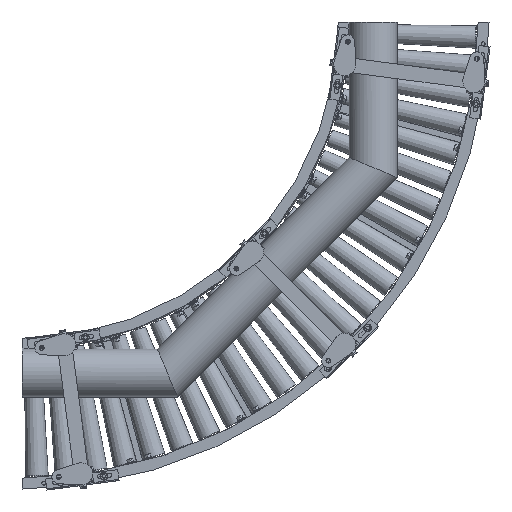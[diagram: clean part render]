
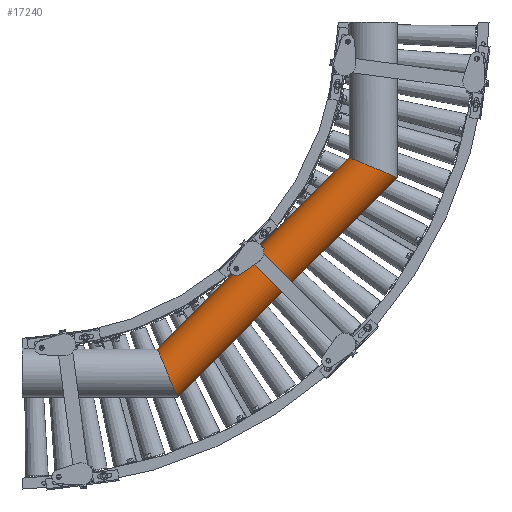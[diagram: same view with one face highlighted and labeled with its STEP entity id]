
A CAD part, front view. The second image highlights one B-rep face of the part: STEP entity #17240.
In plain terms, the highlighted cylindrical face has radius 67.024 mm (diameter 134.048 mm), a partial arc.
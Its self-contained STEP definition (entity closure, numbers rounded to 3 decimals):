
#5202 = EDGE_CURVE ( 'NONE', #36785, #46472, #162422, .T. ) ;
#5720 = EDGE_CURVE ( 'NONE', #160190, #46472, #64490, .T. ) ;
#6674 = CARTESIAN_POINT ( 'NONE',  ( 939.043, -166.5, -333.759 ) ) ;
#8713 = CARTESIAN_POINT ( 'NONE',  ( 379.027, -267.933, -915.03 ) ) ;
#17240 = ADVANCED_FACE ( 'NONE', ( #123305 ), #116495, .T. ) ;
#18136 = ORIENTED_EDGE ( 'NONE', *, *, #127462, .T. ) ;
#22958 = CARTESIAN_POINT ( 'NONE',  ( 421.501, -267.933, -1017.57 ) ) ;
#30211 = DIRECTION ( 'NONE',  ( -0.707, 0., -0.707 ) ) ;
#36785 = VERTEX_POINT ( 'NONE', #59112 ) ;
#38092 = CARTESIAN_POINT ( 'NONE',  ( 1032.6, -166.5, -427.727 ) ) ;
#46472 = VERTEX_POINT ( 'NONE', #147180 ) ;
#54123 = ORIENTED_EDGE ( 'NONE', *, *, #173677, .F. ) ;
#54608 = ORIENTED_EDGE ( 'NONE', *, *, #5720, .F. ) ;
#57807 = DIRECTION ( 'NONE',  ( -0.707, 0., 0.707 ) ) ;
#59112 = CARTESIAN_POINT ( 'NONE',  ( 900., -166.5, -372.802 ) ) ;
#64490 =( BOUNDED_CURVE ( )  B_SPLINE_CURVE ( 3, ( #65747, #22958, #8713, #148338 ),
 .UNSPECIFIED., .F., .F. ) 
 B_SPLINE_CURVE_WITH_KNOTS ( ( 4, 4 ),
 ( 0.147, 2.994 ),
 .UNSPECIFIED. ) 
 CURVE ( )  GEOMETRIC_REPRESENTATION_ITEM ( )  RATIONAL_B_SPLINE_CURVE ( ( 1., 0.431, 0.431, 1. ) ) 
 REPRESENTATION_ITEM ( '' )  );
#65747 = CARTESIAN_POINT ( 'NONE',  ( 427.727, -166.5, -1032.6 ) ) ;
#80300 = VECTOR ( 'NONE', #107786, 1000. ) ;
#88657 = CARTESIAN_POINT ( 'NONE',  ( 1032.805, -166.5, -427.522 ) ) ;
#95307 = CARTESIAN_POINT ( 'NONE',  ( 900., -166.5, -372.802 ) ) ;
#100707 = DIRECTION ( 'NONE',  ( -0.707, 0., -0.707 ) ) ;
#107786 = DIRECTION ( 'NONE',  ( -0.707, 0., -0.707 ) ) ;
#109439 = CARTESIAN_POINT ( 'NONE',  ( 1017.57, -267.933, -421.501 ) ) ;
#110758 =( BOUNDED_CURVE ( )  B_SPLINE_CURVE ( 3, ( #38092, #109439, #123148, #95307 ),
 .UNSPECIFIED., .F., .F. ) 
 B_SPLINE_CURVE_WITH_KNOTS ( ( 4, 4 ),
 ( 0.147, 2.994 ),
 .UNSPECIFIED. ) 
 CURVE ( )  GEOMETRIC_REPRESENTATION_ITEM ( )  RATIONAL_B_SPLINE_CURVE ( ( 1., 0.431, 0.431, 1. ) ) 
 REPRESENTATION_ITEM ( '' )  );
#113027 = CARTESIAN_POINT ( 'NONE',  ( 427.727, -166.5, -1032.6 ) ) ;
#116495 = CYLINDRICAL_SURFACE ( 'NONE', #173750, 67.024 ) ;
#116506 = ORIENTED_EDGE ( 'NONE', *, *, #5202, .T. ) ;
#123148 = CARTESIAN_POINT ( 'NONE',  ( 915.03, -267.933, -379.027 ) ) ;
#123305 = FACE_OUTER_BOUND ( 'NONE', #171484, .T. ) ;
#127462 = EDGE_CURVE ( 'NONE', #145848, #36785, #110758, .T. ) ;
#139277 = VECTOR ( 'NONE', #30211, 1000. ) ;
#141407 = LINE ( 'NONE', #88657, #139277 ) ;
#142890 = CARTESIAN_POINT ( 'NONE',  ( 985.924, -156.676, -380.64 ) ) ;
#145848 = VERTEX_POINT ( 'NONE', #181962 ) ;
#147180 = CARTESIAN_POINT ( 'NONE',  ( 372.802, -166.5, -900. ) ) ;
#148338 = CARTESIAN_POINT ( 'NONE',  ( 372.802, -166.5, -900. ) ) ;
#160190 = VERTEX_POINT ( 'NONE', #113027 ) ;
#162422 = LINE ( 'NONE', #6674, #80300 ) ;
#171484 = EDGE_LOOP ( 'NONE', ( #54123, #18136, #116506, #54608 ) ) ;
#173677 = EDGE_CURVE ( 'NONE', #145848, #160190, #141407, .T. ) ;
#173750 = AXIS2_PLACEMENT_3D ( 'NONE', #142890, #100707, #57807 ) ;
#181962 = CARTESIAN_POINT ( 'NONE',  ( 1032.6, -166.5, -427.727 ) ) ;
